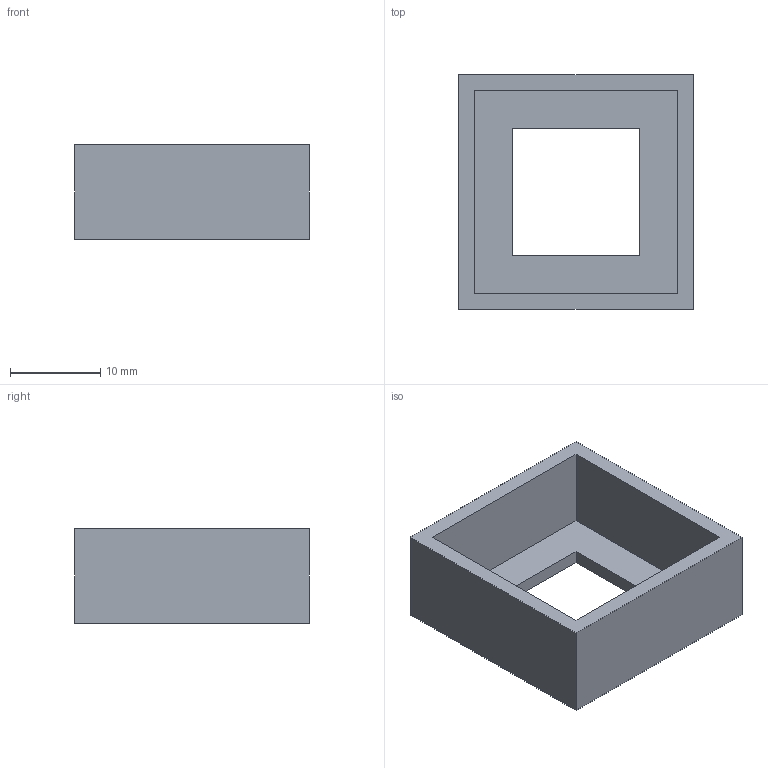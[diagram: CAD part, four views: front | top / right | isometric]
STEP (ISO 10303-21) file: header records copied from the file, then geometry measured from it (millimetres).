
FILE_DESCRIPTION(('Open CASCADE Model'),'2;1');
FILE_NAME('Open CASCADE Shape Model','2026-09-30T20:51:50',('Author'),( 'Open CASCADE'),'Open CASCADE STEP processor 7.9','Open CASCADE 7.9' ,'Unknown');
FILE_SCHEMA(('AUTOMOTIVE_DESIGN { 1 0 10303 214 1 1 1 1 }'));
Length unit declared in the file: millimetre
Products named in the file (1): Open CASCADE STEP translator 7.9 11
Bounding box: 26 x 26 x 10.5 mm (x, y, z)
Volume: 2243.5 mm3; surface area: 2941 mm2
Topology: 1 solids, 1 shells, 15 faces, 36 edges, 24 vertices
Faces by surface type: plane 15
Entity records: 884 total; most frequent: CARTESIAN_POINT 176, DIRECTION 112, LINE 80, VECTOR 80, ORIENTED_EDGE 72, PCURVE 72, DEFINITIONAL_REPRESENTATION 72, EDGE_CURVE 36
